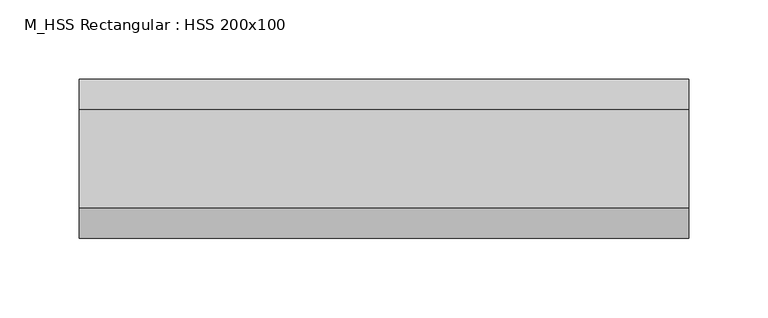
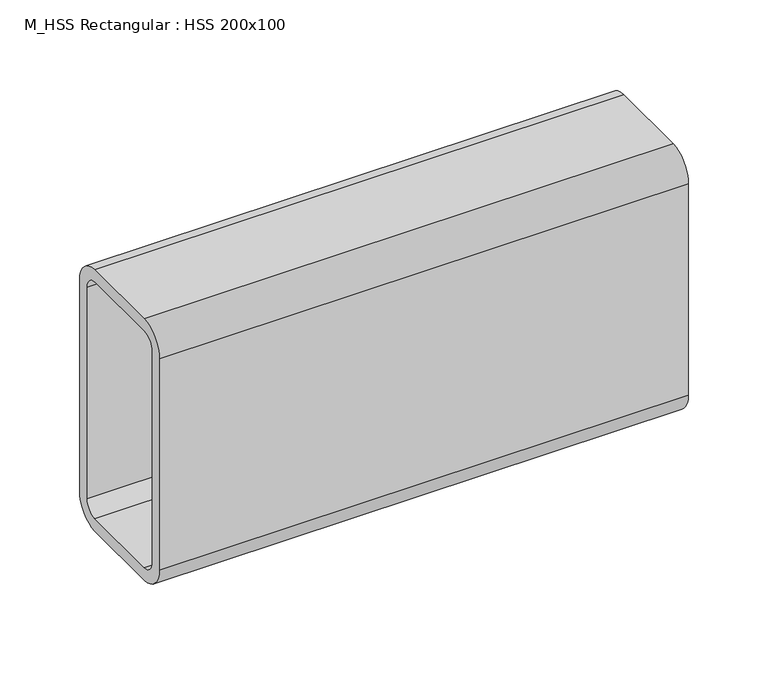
"""IFC4 building model written with IfcOpenShell, lengths in millimetres: beam geometry, M_HSS Rectangular : HSS 200x100."""

from ifc_helpers import new_model, si_unit, point, frame, frame_2d, origin, place, context, project, spatial, polyline, circle_curve, trimmed, segment, composite_curve, outline, extrude, source, transform, mapped, element, save


def m_hss_rectangular_hss_200x100_5a28828e(model_context):
    return source(origin(), model_context, "Body", "SweptSolid", [
        extrude(outline(composite_curve([segment(trimmed(circle_curve(frame_2d((-30.94, 80.94)), 19.06), [point((-50.0, 80.94))], [point((-30.94, 100.0))], False, "CARTESIAN"), True, "CONTINUOUS"), segment(polyline([(-30.94, 100.0), (30.94, 100.0)]), True, "CONTINUOUS"), segment(trimmed(circle_curve(frame_2d((30.94, 80.94)), 19.06), [point((30.94, 100.0))], [point((50.0, 80.94))], False, "CARTESIAN"), True, "CONTINUOUS"), segment(polyline([(50.0, 80.94), (50.0, -80.94)]), True, "CONTINUOUS"), segment(trimmed(circle_curve(frame_2d((30.94, -80.94)), 19.06), [point((50.0, -80.94))], [point((30.94, -100.0))], False, "CARTESIAN"), True, "CONTINUOUS"), segment(polyline([(30.94, -100.0), (-30.94, -100.0)]), True, "CONTINUOUS"), segment(trimmed(circle_curve(frame_2d((-30.94, -80.94)), 19.06), [point((-30.94, -100.0))], [point((-50.0, -80.94))], False, "CARTESIAN"), True, "CONTINUOUS"), segment(polyline([(-50.0, -80.94), (-50.0, 80.94)]), True, "CONTINUOUS")], self_intersect=False), holes=[composite_curve([segment(polyline([(30.94, 90.47), (-30.94, 90.47)]), True, "CONTINUOUS"), segment(trimmed(circle_curve(frame_2d((-30.94, 80.94)), 9.53), [point((-30.94, 90.47))], [point((-40.47, 80.94))], True, "CARTESIAN"), True, "CONTINUOUS"), segment(polyline([(-40.47, 80.94), (-40.47, -80.94)]), True, "CONTINUOUS"), segment(trimmed(circle_curve(frame_2d((-30.94, -80.94)), 9.53), [point((-40.47, -80.94))], [point((-30.94, -90.47))], True, "CARTESIAN"), True, "CONTINUOUS"), segment(polyline([(-30.94, -90.47), (30.94, -90.47)]), True, "CONTINUOUS"), segment(trimmed(circle_curve(frame_2d((30.94, -80.94)), 9.53), [point((30.94, -90.47))], [point((40.47, -80.94))], True, "CARTESIAN"), True, "CONTINUOUS"), segment(polyline([(40.47, -80.94), (40.47, 80.94)]), True, "CONTINUOUS"), segment(trimmed(circle_curve(frame_2d((30.94, 80.94)), 9.53), [point((40.47, 80.94))], [point((30.94, 90.47))], True, "CARTESIAN"), True, "CONTINUOUS")], self_intersect=False)]), frame((-215.25, 0.0, 0.0), z_axis=(1.0, 0.0, 0.0), x_axis=(0.0, 1.0, 0.0)), (0.0, 0.0, 1.0), 383.2),
    ])


if __name__ == "__main__":
    model = new_model("IFC4")
    model_context = context("Model", 3, world=origin())
    ifc_project = project(units=[si_unit("LENGTHUNIT", "METRE", prefix="MILLI")], contexts=[model_context])
    site = spatial("IfcSite", under=ifc_project)
    building = spatial("IfcBuilding", under=site)
    placement = place(None, origin())
    m_hss_rectangular_hss_200x100_shape = m_hss_rectangular_hss_200x100_5a28828e(model_context)
    element("IfcBeam", 1, ObjectType="M_HSS Rectangular : HSS 200x100", at=placement, inside=building, context=model_context, shape_type="MappedRepresentation", body=[
        mapped(m_hss_rectangular_hss_200x100_shape, transform((0.0, 0.0, 0.0), x_axis=(1.0, 0.0, 0.0), y_axis=(0.0, 1.0, 0.0), z_axis=(0.0, 0.0, 1.0))),
    ])
    save(model, "model.ifc")
